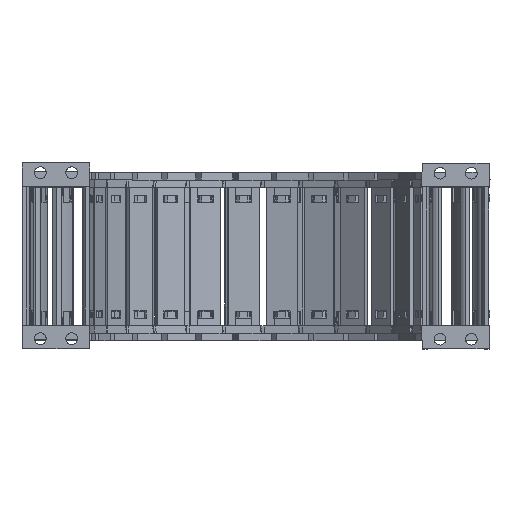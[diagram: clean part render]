
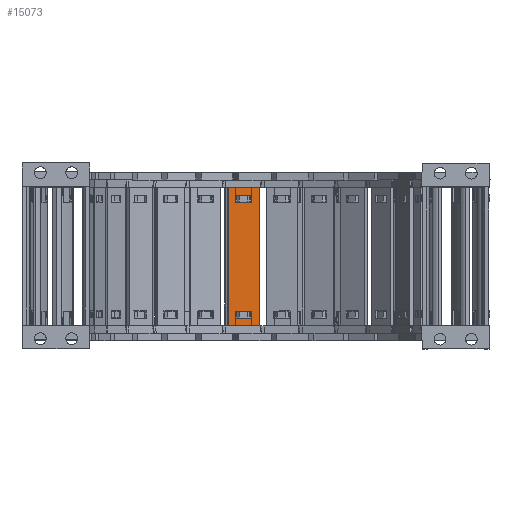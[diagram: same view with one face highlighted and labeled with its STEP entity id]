
A CAD part, top view. The second image highlights one B-rep face of the part: STEP entity #15073.
In plain terms, the highlighted planar face has unit normal (0.048, 0, 0.999).
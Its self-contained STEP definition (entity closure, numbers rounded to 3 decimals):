
#162=FACE_BOUND('',#30481,.T.);
#163=FACE_BOUND('',#30482,.T.);
#164=FACE_BOUND('',#30483,.T.);
#8711=PLANE('',#146224);
#15073=ADVANCED_FACE('',(#162,#163,#164),#8711,.F.);
#30481=EDGE_LOOP('',(#63649,#63650,#63651,#63652));
#30482=EDGE_LOOP('',(#63653,#63654,#63655,#63656));
#30483=EDGE_LOOP('',(#63657,#63658,#63659,#63660));
#63649=ORIENTED_EDGE('',*,*,#104155,.F.);
#63650=ORIENTED_EDGE('',*,*,#104126,.F.);
#63651=ORIENTED_EDGE('',*,*,#104160,.F.);
#63652=ORIENTED_EDGE('',*,*,#104137,.F.);
#63653=ORIENTED_EDGE('',*,*,#104172,.F.);
#63654=ORIENTED_EDGE('',*,*,#104165,.F.);
#63655=ORIENTED_EDGE('',*,*,#104204,.F.);
#63656=ORIENTED_EDGE('',*,*,#104179,.T.);
#63657=ORIENTED_EDGE('',*,*,#104202,.T.);
#63658=ORIENTED_EDGE('',*,*,#104205,.F.);
#63659=ORIENTED_EDGE('',*,*,#104206,.F.);
#63660=ORIENTED_EDGE('',*,*,#104207,.F.);
#86184=VERTEX_POINT('',#224477);
#86185=VERTEX_POINT('',#224479);
#86191=VERTEX_POINT('',#224494);
#86194=VERTEX_POINT('',#224500);
#86211=VERTEX_POINT('',#224557);
#86212=VERTEX_POINT('',#224558);
#86218=VERTEX_POINT('',#224572);
#86221=VERTEX_POINT('',#224580);
#86234=VERTEX_POINT('',#224627);
#86235=VERTEX_POINT('',#224629);
#86236=VERTEX_POINT('',#224634);
#86237=VERTEX_POINT('',#224636);
#104126=EDGE_CURVE('',#86184,#86185,#119852,.T.);
#104137=EDGE_CURVE('',#86194,#86191,#119863,.T.);
#104155=EDGE_CURVE('',#86185,#86194,#119878,.T.);
#104160=EDGE_CURVE('',#86191,#86184,#119883,.T.);
#104165=EDGE_CURVE('',#86211,#86212,#119888,.T.);
#104172=EDGE_CURVE('',#86212,#86218,#119895,.T.);
#104179=EDGE_CURVE('',#86221,#86218,#119902,.T.);
#104202=EDGE_CURVE('',#86235,#86234,#119916,.T.);
#104204=EDGE_CURVE('',#86221,#86211,#119918,.T.);
#104205=EDGE_CURVE('',#86236,#86234,#119919,.T.);
#104206=EDGE_CURVE('',#86237,#86236,#119920,.T.);
#104207=EDGE_CURVE('',#86235,#86237,#119921,.T.);
#119852=LINE('',#224478,#133314);
#119863=LINE('',#224501,#133325);
#119878=LINE('',#224536,#133340);
#119883=LINE('',#224545,#133345);
#119888=LINE('',#224556,#133350);
#119895=LINE('',#224571,#133357);
#119902=LINE('',#224584,#133364);
#119916=LINE('',#224628,#133378);
#119918=LINE('',#224632,#133380);
#119919=LINE('',#224633,#133381);
#119920=LINE('',#224635,#133382);
#119921=LINE('',#224637,#133383);
#133314=VECTOR('',#175489,1.);
#133325=VECTOR('',#175504,1.);
#133340=VECTOR('',#175539,1.);
#133345=VECTOR('',#175548,1.);
#133350=VECTOR('',#175557,1.);
#133357=VECTOR('',#175566,1.);
#133364=VECTOR('',#175575,1.);
#133378=VECTOR('',#175625,1.);
#133380=VECTOR('',#175629,1.);
#133381=VECTOR('',#175630,1.);
#133382=VECTOR('',#175631,1.);
#133383=VECTOR('',#175632,1.);
#146224=AXIS2_PLACEMENT_3D('',#224638,#175633,#175634);
#175489=DIRECTION('',(0.999,0.,-0.048));
#175504=DIRECTION('',(-0.999,0.,0.048));
#175539=DIRECTION('',(0.,1.,0.));
#175548=DIRECTION('',(0.,-1.,0.));
#175557=DIRECTION('',(-0.999,0.,0.048));
#175566=DIRECTION('',(0.,-1.,0.));
#175575=DIRECTION('',(-0.999,0.,0.048));
#175625=DIRECTION('',(0.,-1.,0.));
#175629=DIRECTION('',(0.,1.,0.));
#175630=DIRECTION('',(-0.999,0.,0.048));
#175631=DIRECTION('',(0.,-1.,0.));
#175632=DIRECTION('',(0.999,0.,-0.048));
#175633=DIRECTION('',(-0.048,0.,-0.999));
#175634=DIRECTION('',(-0.999,0.,0.048));
#224477=CARTESIAN_POINT('',(-112.088,-66.53,-104.598));
#224478=CARTESIAN_POINT('',(-112.088,-66.53,-104.598));
#224479=CARTESIAN_POINT('',(-103.947,-66.53,-104.989));
#224494=CARTESIAN_POINT('',(-112.088,-62.882,-104.598));
#224500=CARTESIAN_POINT('',(-103.947,-62.882,-104.989));
#224501=CARTESIAN_POINT('',(-103.947,-62.882,-104.989));
#224536=CARTESIAN_POINT('',(-103.947,-97.96,-104.989));
#224545=CARTESIAN_POINT('',(-112.088,-94.36,-104.598));
#224556=CARTESIAN_POINT('',(-103.947,-3.97,-104.989));
#224557=CARTESIAN_POINT('',(-103.947,-3.97,-104.989));
#224558=CARTESIAN_POINT('',(-112.088,-3.97,-104.598));
#224571=CARTESIAN_POINT('',(-112.088,-3.97,-104.598));
#224572=CARTESIAN_POINT('',(-112.088,-7.618,-104.598));
#224580=CARTESIAN_POINT('',(-103.947,-7.618,-104.989));
#224584=CARTESIAN_POINT('',(-103.947,-7.618,-104.989));
#224627=CARTESIAN_POINT('',(-115.908,-70.5,-104.414));
#224628=CARTESIAN_POINT('',(-115.908,0.,-104.414));
#224629=CARTESIAN_POINT('',(-115.908,0.,-104.414));
#224632=CARTESIAN_POINT('',(-103.947,-7.618,-104.989));
#224633=CARTESIAN_POINT('',(-100.127,-70.5,-105.172));
#224634=CARTESIAN_POINT('',(-100.127,-70.5,-105.172));
#224635=CARTESIAN_POINT('',(-100.127,0.,-105.172));
#224636=CARTESIAN_POINT('',(-100.127,0.,-105.172));
#224637=CARTESIAN_POINT('',(-115.908,0.,-104.414));
#224638=CARTESIAN_POINT('',(-97.969,31.74,-105.276));
